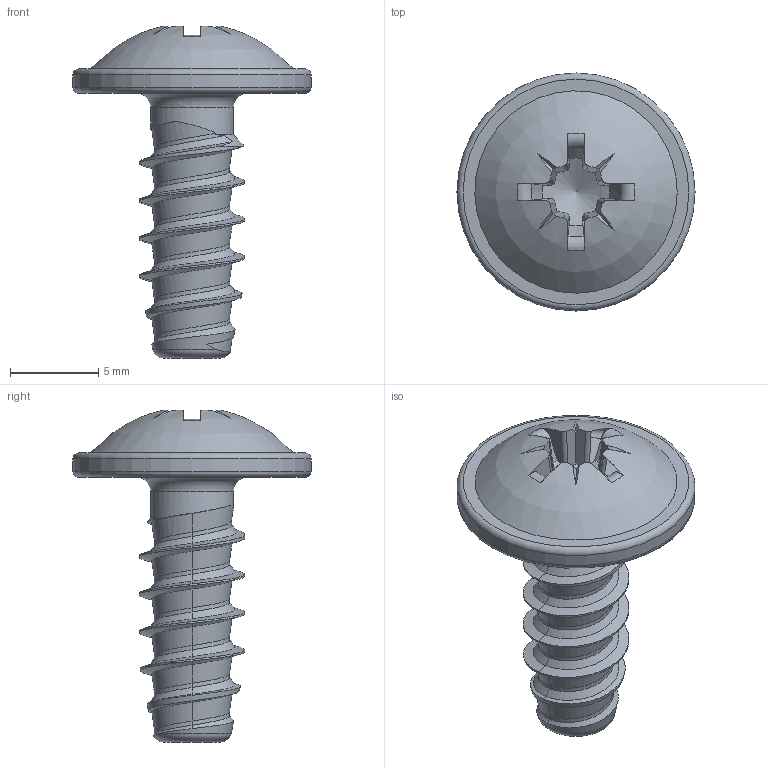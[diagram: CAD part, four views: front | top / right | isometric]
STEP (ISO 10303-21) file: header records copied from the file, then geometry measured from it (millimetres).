
FILE_DESCRIPTION(/* description */ (''),/* implementation_level */ '2;1');
FILE_NAME(/* name */ 'KN6031-STSplus-60x15-Z3.step',/* time_stamp */ '2017-10-09T17:05:07+02:00',/* author */ (''),/* organization */ (''),/* preprocessor_version */ 'ST-DEVELOPER v16',/* originating_system */ 'SIEMENS PLM Software NX 10.0',/* authorisation */ '');
FILE_SCHEMA (('AUTOMOTIVE_DESIGN { 1 0 10303 214 3 1 1 1 }'));
Length unit declared in the file: millimetre
Products named in the file (1): KN6031-STSplus-60x15-Z3
Bounding box: 13.5 x 13.5 x 18.83 mm (x, y, z)
Volume: 570.2 mm3; surface area: 676.8 mm2
Topology: 1 solids, 1 shells, 88 faces, 226 edges, 141 vertices
Faces by surface type: bspline 34, plane 27, cylinder 11, torus 8, cone 7, sphere 1
Full cylindrical faces by diameter (mm): 4.68 x1, 13.5 x1
Entity records: 4622 total; most frequent: CARTESIAN_POINT 2805, ORIENTED_EDGE 424, DIRECTION 268, EDGE_CURVE 212, VERTEX_POINT 136, AXIS2_PLACEMENT_3D 103, B_SPLINE_CURVE_WITH_KNOTS 102, EDGE_LOOP 97
